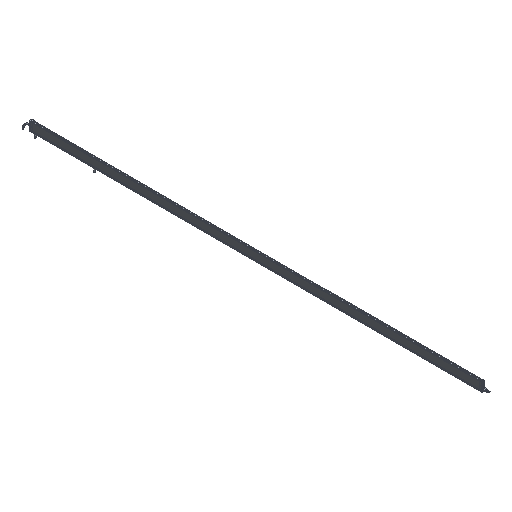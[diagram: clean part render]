
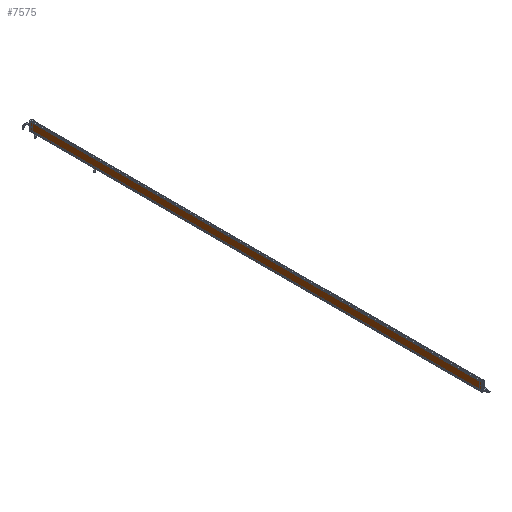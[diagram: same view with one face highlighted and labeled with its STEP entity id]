
A CAD part, isometric view. The second image highlights one B-rep face of the part: STEP entity #7575.
In plain terms, the highlighted planar face has unit normal (-1, 0, 0).
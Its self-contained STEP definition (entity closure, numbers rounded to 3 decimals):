
#453 = LINE ( 'NONE', #6006, #17360 ) ;
#1291 = CARTESIAN_POINT ( 'NONE',  ( -9., 1515., 28.5 ) ) ;
#1375 = LINE ( 'NONE', #19388, #10091 ) ;
#1776 = ORIENTED_EDGE ( 'NONE', *, *, #8179, .F. ) ;
#3091 = LINE ( 'NONE', #6539, #20277 ) ;
#4288 = EDGE_CURVE ( 'NONE', #16860, #15537, #1375, .T. ) ;
#6006 = CARTESIAN_POINT ( 'NONE',  ( -9., 1515., 0.5 ) ) ;
#6118 = DIRECTION ( 'NONE',  ( 0., -1., 0. ) ) ;
#6296 = ORIENTED_EDGE ( 'NONE', *, *, #4288, .T. ) ;
#6539 = CARTESIAN_POINT ( 'NONE',  ( -9., 0., 28.5 ) ) ;
#7575 = ADVANCED_FACE ( 'NONE', ( #11604 ), #9291, .T. ) ;
#7770 = ORIENTED_EDGE ( 'NONE', *, *, #9412, .T. ) ;
#7891 = DIRECTION ( 'NONE',  ( -1., 0., 0. ) ) ;
#8179 = EDGE_CURVE ( 'NONE', #16604, #15960, #3091, .T. ) ;
#8198 = DIRECTION ( 'NONE',  ( 0., 0., -1. ) ) ;
#8325 = DIRECTION ( 'NONE',  ( 0., 0., -1. ) ) ;
#9291 = PLANE ( 'NONE',  #18719 ) ;
#9412 = EDGE_CURVE ( 'NONE', #15537, #15960, #453, .T. ) ;
#10073 = EDGE_CURVE ( 'NONE', #16860, #16604, #12987, .T. ) ;
#10091 = VECTOR ( 'NONE', #8198, 1000. ) ;
#10688 = CARTESIAN_POINT ( 'NONE',  ( -9., 1515., 0.5 ) ) ;
#11604 = FACE_OUTER_BOUND ( 'NONE', #12444, .T. ) ;
#12444 = EDGE_LOOP ( 'NONE', ( #1776, #14980, #6296, #7770 ) ) ;
#12987 = LINE ( 'NONE', #1291, #18454 ) ;
#14980 = ORIENTED_EDGE ( 'NONE', *, *, #10073, .F. ) ;
#15328 = DIRECTION ( 'NONE',  ( 0., -1., 0. ) ) ;
#15537 = VERTEX_POINT ( 'NONE', #10688 ) ;
#15661 = DIRECTION ( 'NONE',  ( 0., -1., 0. ) ) ;
#15960 = VERTEX_POINT ( 'NONE', #18936 ) ;
#16604 = VERTEX_POINT ( 'NONE', #19165 ) ;
#16860 = VERTEX_POINT ( 'NONE', #19802 ) ;
#17327 = CARTESIAN_POINT ( 'NONE',  ( -9., 1515., 28.5 ) ) ;
#17360 = VECTOR ( 'NONE', #15328, 1000. ) ;
#18454 = VECTOR ( 'NONE', #6118, 1000. ) ;
#18719 = AXIS2_PLACEMENT_3D ( 'NONE', #17327, #7891, #15661 ) ;
#18936 = CARTESIAN_POINT ( 'NONE',  ( -9., 0., 0.5 ) ) ;
#19165 = CARTESIAN_POINT ( 'NONE',  ( -9., 0., 28.5 ) ) ;
#19388 = CARTESIAN_POINT ( 'NONE',  ( -9., 1515., 28.5 ) ) ;
#19802 = CARTESIAN_POINT ( 'NONE',  ( -9., 1515., 28.5 ) ) ;
#20277 = VECTOR ( 'NONE', #8325, 1000. ) ;
